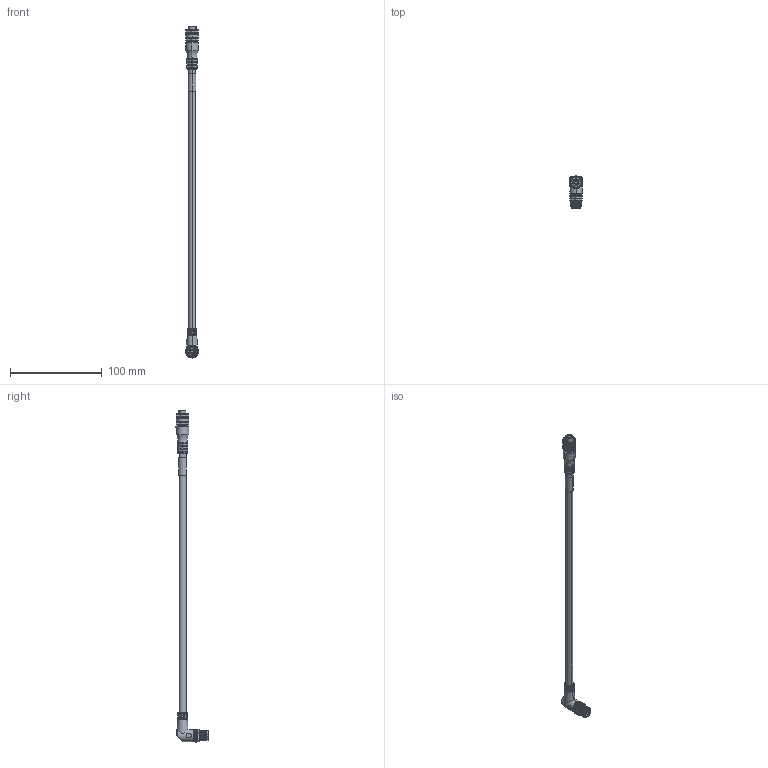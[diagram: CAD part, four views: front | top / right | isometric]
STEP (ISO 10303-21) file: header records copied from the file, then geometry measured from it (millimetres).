
FILE_DESCRIPTION((''),'2;1');
FILE_NAME('889R-F5HJRE-2','2014-05-30T',('20045555'),('Rockwell Automation'),'PRO/ENGINEER BY PARAMETRIC TECHNOLOGY CORPORATION, 2010140','PRO/ENGINEER BY PARAMETRIC TECHNOLOGY CORPORATION, 2010140','');
FILE_SCHEMA(('CONFIG_CONTROL_DESIGN'));
Length unit declared in the file: inch
Products named in the file (1): 889R-F5HJRE-2
Bounding box: 14.01 x 35.2 x 362.36 mm (x, y, z)
Volume: 23089 mm3; surface area: 13381.9 mm2
Topology: 1 solids, 1 shells, 1382 faces, 3650 edges, 2301 vertices
Faces by surface type: plane 851, cylinder 392, cone 106, torus 29, bspline 2, sphere 2
Entity records: 44003 total; most frequent: CARTESIAN_POINT 9049, DIRECTION 7622, ORIENTED_EDGE 7296, EDGE_CURVE 3648, AXIS2_PLACEMENT_3D 2823, VERTEX_POINT 2301, VECTOR 1976, LINE 1976
